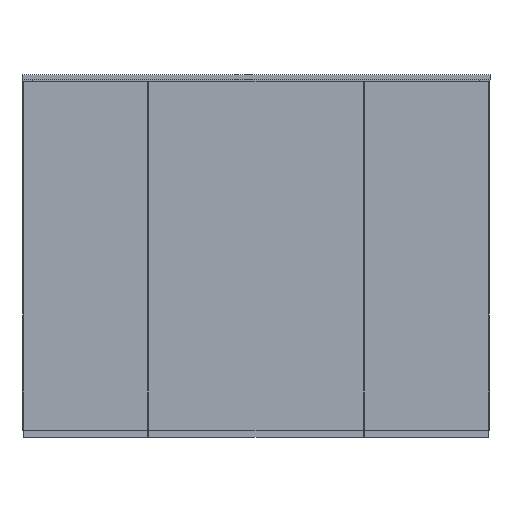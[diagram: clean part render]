
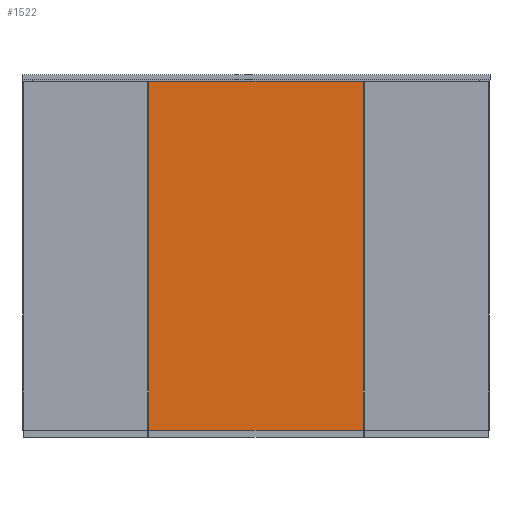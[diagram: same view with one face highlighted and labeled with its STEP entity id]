
A CAD part, front view. The second image highlights one B-rep face of the part: STEP entity #1522.
In plain terms, the highlighted planar face has unit normal (0, -1, 0).
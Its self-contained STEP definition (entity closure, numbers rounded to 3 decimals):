
#91=FACE_OUTER_BOUND('',#171,.T.);
#171=EDGE_LOOP('',(#1267,#1268,#1269,#1270));
#354=LINE('',#2340,#552);
#364=LINE('',#2361,#562);
#365=LINE('',#2363,#563);
#366=LINE('',#2364,#564);
#552=VECTOR('',#1937,10.);
#562=VECTOR('',#1955,10.);
#563=VECTOR('',#1956,10.);
#564=VECTOR('',#1957,10.);
#689=VERTEX_POINT('',#2333);
#692=VERTEX_POINT('',#2338);
#699=VERTEX_POINT('',#2360);
#700=VERTEX_POINT('',#2362);
#882=EDGE_CURVE('',#692,#689,#354,.T.);
#892=EDGE_CURVE('',#699,#689,#364,.T.);
#893=EDGE_CURVE('',#692,#700,#365,.T.);
#894=EDGE_CURVE('',#700,#699,#366,.T.);
#1267=ORIENTED_EDGE('',*,*,#892,.T.);
#1268=ORIENTED_EDGE('',*,*,#882,.F.);
#1269=ORIENTED_EDGE('',*,*,#893,.T.);
#1270=ORIENTED_EDGE('',*,*,#894,.T.);
#1368=PLANE('',#1620);
#1522=ADVANCED_FACE('',(#91),#1368,.T.);
#1620=AXIS2_PLACEMENT_3D('',#2359,#1953,#1954);
#1937=DIRECTION('',(1.,0.,0.));
#1953=DIRECTION('center_axis',(0.,-1.,0.));
#1954=DIRECTION('ref_axis',(0.,0.,-1.));
#1955=DIRECTION('',(0.,0.,1.));
#1956=DIRECTION('',(0.,0.,-1.));
#1957=DIRECTION('',(1.,0.,0.));
#2333=CARTESIAN_POINT('',(207.,-150.,672.));
#2338=CARTESIAN_POINT('',(-207.,-150.,672.));
#2340=CARTESIAN_POINT('',(0.,-150.,672.));
#2359=CARTESIAN_POINT('Origin',(0.,-150.,672.));
#2360=CARTESIAN_POINT('',(207.,-150.,0.));
#2361=CARTESIAN_POINT('',(207.,-150.,329.));
#2362=CARTESIAN_POINT('',(-207.,-150.,0.));
#2363=CARTESIAN_POINT('',(-207.,-150.,672.));
#2364=CARTESIAN_POINT('',(0.,-150.,0.));
